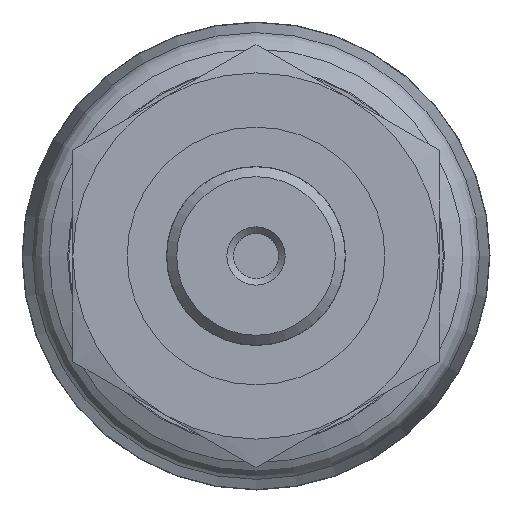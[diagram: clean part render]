
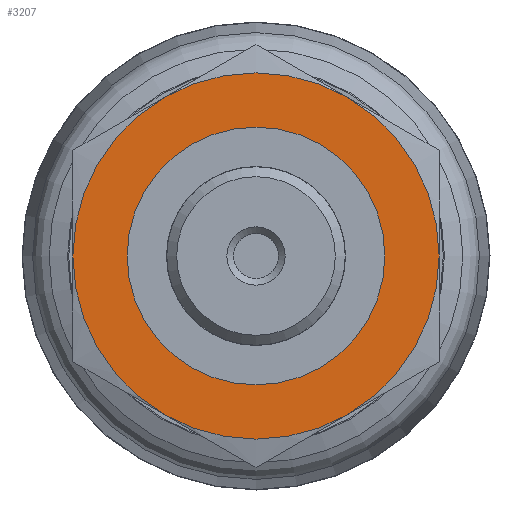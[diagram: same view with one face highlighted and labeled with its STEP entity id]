
A CAD part, left-side view. The second image highlights one B-rep face of the part: STEP entity #3207.
In plain terms, the highlighted planar face has unit normal (-1, 0, 0).
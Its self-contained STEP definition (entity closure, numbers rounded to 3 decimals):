
#155=FACE_BOUND('',#553,.T.);
#217=CIRCLE('',#3445,13.5);
#218=CIRCLE('',#3446,13.5);
#219=CIRCLE('',#3447,13.5);
#220=CIRCLE('',#3448,13.5);
#221=CIRCLE('',#3449,13.5);
#222=CIRCLE('',#3450,13.5);
#223=CIRCLE('',#3451,9.5);
#369=FACE_OUTER_BOUND('',#552,.T.);
#552=EDGE_LOOP('',(#2118,#2119,#2120,#2121,#2122,#2123));
#553=EDGE_LOOP('',(#2124));
#1268=VERTEX_POINT('',#4615);
#1269=VERTEX_POINT('',#4616);
#1270=VERTEX_POINT('',#4618);
#1271=VERTEX_POINT('',#4620);
#1272=VERTEX_POINT('',#4622);
#1273=VERTEX_POINT('',#4624);
#1274=VERTEX_POINT('',#4627);
#1594=EDGE_CURVE('',#1268,#1269,#217,.T.);
#1595=EDGE_CURVE('',#1269,#1270,#218,.T.);
#1596=EDGE_CURVE('',#1270,#1271,#219,.T.);
#1597=EDGE_CURVE('',#1271,#1272,#220,.T.);
#1598=EDGE_CURVE('',#1272,#1273,#221,.T.);
#1599=EDGE_CURVE('',#1273,#1268,#222,.T.);
#1600=EDGE_CURVE('',#1274,#1274,#223,.T.);
#2118=ORIENTED_EDGE('',*,*,#1594,.T.);
#2119=ORIENTED_EDGE('',*,*,#1595,.T.);
#2120=ORIENTED_EDGE('',*,*,#1596,.T.);
#2121=ORIENTED_EDGE('',*,*,#1597,.T.);
#2122=ORIENTED_EDGE('',*,*,#1598,.T.);
#2123=ORIENTED_EDGE('',*,*,#1599,.T.);
#2124=ORIENTED_EDGE('',*,*,#1600,.T.);
#2927=PLANE('',#3444);
#3207=ADVANCED_FACE('',(#369,#155),#2927,.T.);
#3444=AXIS2_PLACEMENT_3D('',#4614,#3818,#3819);
#3445=AXIS2_PLACEMENT_3D('',#4617,#3820,#3821);
#3446=AXIS2_PLACEMENT_3D('',#4619,#3822,#3823);
#3447=AXIS2_PLACEMENT_3D('',#4621,#3824,#3825);
#3448=AXIS2_PLACEMENT_3D('',#4623,#3826,#3827);
#3449=AXIS2_PLACEMENT_3D('',#4625,#3828,#3829);
#3450=AXIS2_PLACEMENT_3D('',#4626,#3830,#3831);
#3451=AXIS2_PLACEMENT_3D('',#4628,#3832,#3833);
#3818=DIRECTION('center_axis',(-1.,0.,0.));
#3819=DIRECTION('ref_axis',(0.,0.,1.));
#3820=DIRECTION('center_axis',(-1.,0.,0.));
#3821=DIRECTION('ref_axis',(0.,0.,1.));
#3822=DIRECTION('center_axis',(-1.,0.,0.));
#3823=DIRECTION('ref_axis',(0.,0.,1.));
#3824=DIRECTION('center_axis',(-1.,0.,0.));
#3825=DIRECTION('ref_axis',(0.,0.,1.));
#3826=DIRECTION('center_axis',(-1.,0.,0.));
#3827=DIRECTION('ref_axis',(0.,0.,1.));
#3828=DIRECTION('center_axis',(-1.,0.,0.));
#3829=DIRECTION('ref_axis',(0.,0.,1.));
#3830=DIRECTION('center_axis',(-1.,0.,0.));
#3831=DIRECTION('ref_axis',(0.,0.,1.));
#3832=DIRECTION('center_axis',(1.,0.,0.));
#3833=DIRECTION('ref_axis',(0.,1.,0.));
#4614=CARTESIAN_POINT('Origin',(-24.,11.5,0.));
#4615=CARTESIAN_POINT('',(-24.,6.75,-11.691));
#4616=CARTESIAN_POINT('',(-24.,-6.75,-11.691));
#4617=CARTESIAN_POINT('Origin',(-24.,0.,0.));
#4618=CARTESIAN_POINT('',(-24.,-13.5,0.));
#4619=CARTESIAN_POINT('Origin',(-24.,0.,0.));
#4620=CARTESIAN_POINT('',(-24.,-6.75,11.691));
#4621=CARTESIAN_POINT('Origin',(-24.,0.,0.));
#4622=CARTESIAN_POINT('',(-24.,6.75,11.691));
#4623=CARTESIAN_POINT('Origin',(-24.,0.,0.));
#4624=CARTESIAN_POINT('',(-24.,13.5,0.));
#4625=CARTESIAN_POINT('Origin',(-24.,0.,0.));
#4626=CARTESIAN_POINT('Origin',(-24.,0.,0.));
#4627=CARTESIAN_POINT('',(-24.,-9.5,0.));
#4628=CARTESIAN_POINT('Origin',(-24.,0.,0.));
